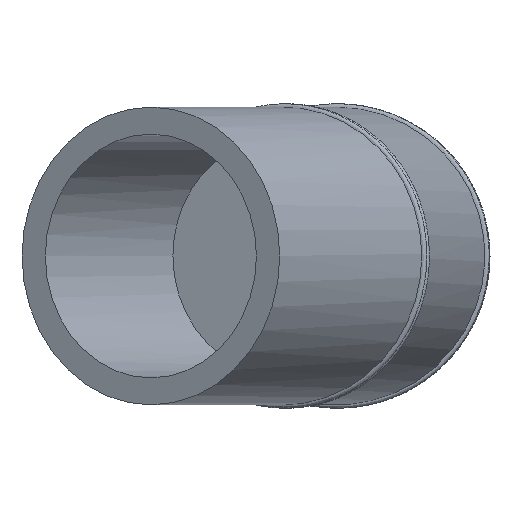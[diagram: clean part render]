
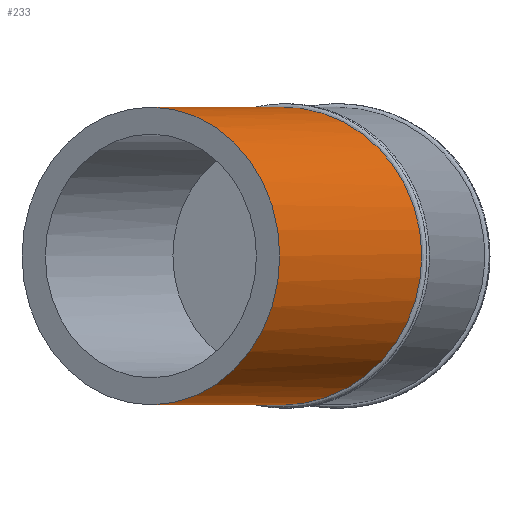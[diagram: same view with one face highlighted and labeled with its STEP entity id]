
A CAD part, front view. The second image highlights one B-rep face of the part: STEP entity #233.
In plain terms, the highlighted cylindrical face has radius 177.5 mm (diameter 355 mm), a full revolution.
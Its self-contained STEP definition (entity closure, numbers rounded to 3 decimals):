
#37=B_SPLINE_CURVE_WITH_KNOTS('',3,(#396,#397,#398,#399,#400,#401,#402,
#403,#404,#405,#406,#407,#408,#409,#410,#411,#412,#413,#414,#415,#416,#417,
#418,#419,#420,#421,#422,#423,#424,#425,#426,#427,#428,#429,#430,#431,#432,
#433,#434,#435,#436,#437,#438,#439,#440,#441,#442,#443,#444,#445,#446,#447,
#448,#449,#450,#451,#452,#453,#454,#455,#456,#457,#458,#459,#460,#461,#462,
#463,#464,#465,#466,#467,#468,#469,#470,#471,#472,#473,#474,#475,#476,#477),
 .UNSPECIFIED.,.T.,.F.,(1,1,1,1,1,1,1,1,1,1,1,1,1,1,1,1,1,1,1,1,1,1,1,1,
1,1,1,1,1,1,1,1,1,1,1,1,1,1,1,1,1,1,1,1,1,1,1,1,1,1,1,1,1,1,1,1,1,1,1,1,
1,1,1,1,1,1,1,1,1,1,1,1,1,1,1,1,1,1,1,1,1,1,1,1,1,1),(-0.07,
-0.053,-0.035,0.,0.018,
0.035,0.044,0.053,0.07,
0.088,0.097,0.105,0.123,
0.141,0.158,0.167,0.176,
0.193,0.211,0.229,0.246,
0.264,0.272,0.281,0.299,
0.316,0.334,0.343,0.352,
0.36,0.369,0.387,0.404,
0.422,0.439,0.457,0.475,
0.483,0.492,0.51,0.527,
0.545,0.554,0.562,0.571,
0.58,0.598,0.615,0.633,
0.65,0.659,0.668,0.686,
0.703,0.721,0.729,0.738,
0.747,0.756,0.773,0.791,
0.809,0.817,0.826,0.844,
0.861,0.879,0.896,0.914,
0.932,0.94,0.949,0.958,0.967,
0.984,1.002,1.019,1.037,1.046,
1.055,1.072,1.09,1.125,1.143,
1.16,1.169),.UNSPECIFIED.);
#46=CYLINDRICAL_SURFACE('',#283,177.5);
#78=ORIENTED_EDGE('',*,*,#130,.T.);
#79=ORIENTED_EDGE('',*,*,#123,.F.);
#123=EDGE_CURVE('',#149,#149,#169,.T.);
#130=EDGE_CURVE('',#156,#156,#37,.T.);
#149=VERTEX_POINT('',#381);
#156=VERTEX_POINT('',#478);
#169=CIRCLE('',#275,177.5);
#175=EDGE_LOOP('',(#78));
#176=EDGE_LOOP('',(#79));
#203=FACE_BOUND('',#175,.T.);
#204=FACE_BOUND('',#176,.T.);
#233=ADVANCED_FACE('',(#203,#204),#46,.T.);
#275=AXIS2_PLACEMENT_3D('',#380,#312,#313);
#283=AXIS2_PLACEMENT_3D('',#395,#328,#329);
#312=DIRECTION('',(0.,1.,0.));
#313=DIRECTION('',(-1.,0.,0.));
#328=DIRECTION('',(0.,1.,0.));
#329=DIRECTION('',(-1.,0.,0.));
#380=CARTESIAN_POINT('',(899.097,205.,0.));
#381=CARTESIAN_POINT('',(721.597,205.,0.));
#395=CARTESIAN_POINT('',(899.097,-141.737,0.));
#396=CARTESIAN_POINT('',(723.34,-87.194,-29.263));
#397=CARTESIAN_POINT('',(721.014,-86.889,-5.865));
#398=CARTESIAN_POINT('',(722.18,-87.042,17.58));
#399=CARTESIAN_POINT('',(724.332,-87.325,31.995));
#400=CARTESIAN_POINT('',(726.918,-87.664,43.434));
#401=CARTESIAN_POINT('',(730.042,-88.074,54.641));
#402=CARTESIAN_POINT('',(734.932,-88.716,68.235));
#403=CARTESIAN_POINT('',(741.115,-89.528,81.283));
#404=CARTESIAN_POINT('',(746.847,-90.281,91.388));
#405=CARTESIAN_POINT('',(753.116,-91.104,101.269));
#406=CARTESIAN_POINT('',(761.796,-92.244,112.946));
#407=CARTESIAN_POINT('',(773.587,-93.793,125.918));
#408=CARTESIAN_POINT('',(784.375,-95.21,135.664));
#409=CARTESIAN_POINT('',(793.579,-96.42,142.82));
#410=CARTESIAN_POINT('',(803.08,-97.669,149.486));
#411=CARTESIAN_POINT('',(815.594,-99.314,156.955));
#412=CARTESIAN_POINT('',(831.339,-101.384,164.367));
#413=CARTESIAN_POINT('',(847.795,-103.548,170.22));
#414=CARTESIAN_POINT('',(864.504,-105.746,174.378));
#415=CARTESIAN_POINT('',(878.693,-107.613,176.487));
#416=CARTESIAN_POINT('',(890.186,-109.126,177.347));
#417=CARTESIAN_POINT('',(901.807,-110.656,177.645));
#418=CARTESIAN_POINT('',(916.263,-112.559,176.954));
#419=CARTESIAN_POINT('',(933.53,-114.834,174.418));
#420=CARTESIAN_POINT('',(947.578,-116.684,170.923));
#421=CARTESIAN_POINT('',(958.633,-118.141,167.293));
#422=CARTESIAN_POINT('',(966.753,-119.211,164.177));
#423=CARTESIAN_POINT('',(974.709,-120.26,160.668));
#424=CARTESIAN_POINT('',(985.115,-121.632,155.455));
#425=CARTESIAN_POINT('',(997.58,-123.275,148.017));
#426=CARTESIAN_POINT('',(1011.65,-125.131,137.621));
#427=CARTESIAN_POINT('',(1024.595,-126.839,125.931));
#428=CARTESIAN_POINT('',(1036.38,-128.393,112.963));
#429=CARTESIAN_POINT('',(1046.698,-129.755,99.093));
#430=CARTESIAN_POINT('',(1054.149,-130.738,86.739));
#431=CARTESIAN_POINT('',(1059.399,-131.432,76.387));
#432=CARTESIAN_POINT('',(1064.174,-132.062,65.693));
#433=CARTESIAN_POINT('',(1069.118,-132.715,51.975));
#434=CARTESIAN_POINT('',(1073.423,-133.283,34.917));
#435=CARTESIAN_POINT('',(1075.581,-133.568,20.479));
#436=CARTESIAN_POINT('',(1076.452,-133.683,8.786));
#437=CARTESIAN_POINT('',(1076.668,-133.712,0.029));
#438=CARTESIAN_POINT('',(1076.454,-133.683,-8.731));
#439=CARTESIAN_POINT('',(1075.587,-133.569,-20.426));
#440=CARTESIAN_POINT('',(1073.435,-133.285,-34.86));
#441=CARTESIAN_POINT('',(1069.131,-132.716,-51.927));
#442=CARTESIAN_POINT('',(1063.256,-131.941,-68.245));
#443=CARTESIAN_POINT('',(1057.074,-131.125,-81.288));
#444=CARTESIAN_POINT('',(1051.357,-130.37,-91.37));
#445=CARTESIAN_POINT('',(1045.097,-129.544,-101.242));
#446=CARTESIAN_POINT('',(1036.412,-128.398,-112.928));
#447=CARTESIAN_POINT('',(1024.623,-126.842,-125.901));
#448=CARTESIAN_POINT('',(1013.844,-125.42,-135.641));
#449=CARTESIAN_POINT('',(1004.638,-124.206,-142.803));
#450=CARTESIAN_POINT('',(997.506,-123.266,-147.808));
#451=CARTESIAN_POINT('',(990.144,-122.295,-152.454));
#452=CARTESIAN_POINT('',(980.001,-120.958,-158.177));
#453=CARTESIAN_POINT('',(966.881,-119.228,-164.356));
#454=CARTESIAN_POINT('',(950.428,-117.06,-170.213));
#455=CARTESIAN_POINT('',(936.379,-115.209,-173.71));
#456=CARTESIAN_POINT('',(924.916,-113.699,-175.684));
#457=CARTESIAN_POINT('',(913.461,-112.191,-177.082));
#458=CARTESIAN_POINT('',(899.131,-110.304,-177.776));
#459=CARTESIAN_POINT('',(881.951,-108.042,-176.953));
#460=CARTESIAN_POINT('',(864.694,-105.771,-174.424));
#461=CARTESIAN_POINT('',(847.824,-103.552,-170.23));
#462=CARTESIAN_POINT('',(831.372,-101.388,-164.38));
#463=CARTESIAN_POINT('',(818.25,-99.663,-158.206));
#464=CARTESIAN_POINT('',(808.105,-98.329,-152.487));
#465=CARTESIAN_POINT('',(800.742,-97.361,-147.844));
#466=CARTESIAN_POINT('',(793.608,-96.424,-142.842));
#467=CARTESIAN_POINT('',(784.399,-95.214,-135.684));
#468=CARTESIAN_POINT('',(773.618,-93.797,-125.95));
#469=CARTESIAN_POINT('',(761.818,-92.247,-112.97));
#470=CARTESIAN_POINT('',(751.488,-90.89,-99.082));
#471=CARTESIAN_POINT('',(744.042,-89.912,-86.734));
#472=CARTESIAN_POINT('',(738.8,-89.224,-76.399));
#473=CARTESIAN_POINT('',(734.03,-88.598,-65.721));
#474=CARTESIAN_POINT('',(729.079,-87.948,-51.987));
#475=CARTESIAN_POINT('',(723.34,-87.194,-29.263));
#476=CARTESIAN_POINT('',(721.014,-86.889,-5.865));
#477=CARTESIAN_POINT('',(722.18,-87.042,17.58));
#478=CARTESIAN_POINT('',(721.597,-86.965,0.));
